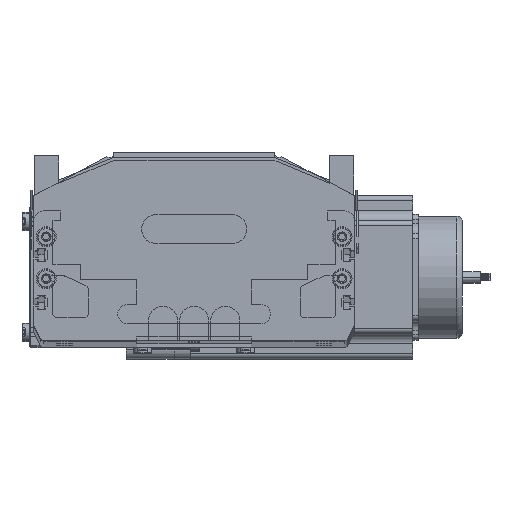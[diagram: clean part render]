
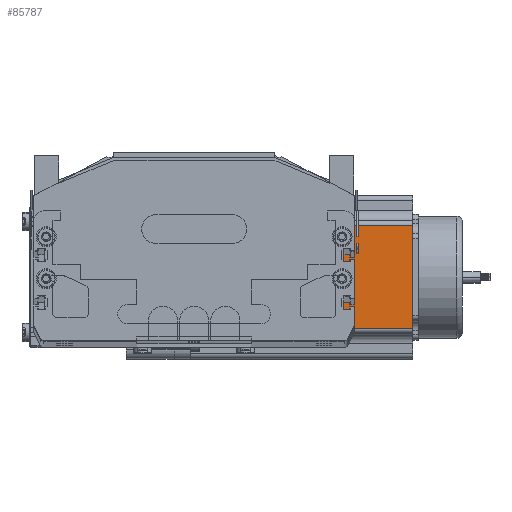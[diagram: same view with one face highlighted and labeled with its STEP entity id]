
A CAD part, top view. The second image highlights one B-rep face of the part: STEP entity #85787.
In plain terms, the highlighted planar face has unit normal (0, 0, 1) as drawn and (0, -1, 0) by its records, which use the part's own axes.
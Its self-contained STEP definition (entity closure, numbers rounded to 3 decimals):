
#36716 = CARTESIAN_POINT ( 'NONE',  ( 16.16, 0., 0. ) ) ;
#36743 = CARTESIAN_POINT ( 'NONE',  ( 0., 0., 0. ) ) ;
#36744 = LINE ( 'NONE', #36743, #36843 ) ;
#36836 = PLANE ( 'NONE',  #36860 ) ;
#36841 = DIRECTION ( 'NONE',  ( 1., 0., 0. ) ) ;
#36843 = VECTOR ( 'NONE', #36841, 1000. ) ;
#36860 = AXIS2_PLACEMENT_3D ( 'NONE', #36877, #36876, #36875 ) ;
#36866 = VECTOR ( 'NONE', #36969, 1000. ) ;
#36867 = DIRECTION ( 'NONE',  ( 0., 0., 1. ) ) ;
#36868 = VECTOR ( 'NONE', #36867, 1000. ) ;
#36870 = CARTESIAN_POINT ( 'NONE',  ( 69.74, 0., 116.5 ) ) ;
#36873 = CARTESIAN_POINT ( 'NONE',  ( 0., 0., 116.5 ) ) ;
#36874 = LINE ( 'NONE', #36873, #36866 ) ;
#36875 = DIRECTION ( 'NONE',  ( 0., 0., 1. ) ) ;
#36876 = DIRECTION ( 'NONE',  ( 0., 1., 0. ) ) ;
#36877 = CARTESIAN_POINT ( 'NONE',  ( 0., 0., 116.5 ) ) ;
#36878 = LINE ( 'NONE', #36870, #36868 ) ;
#36883 = LINE ( 'NONE', #36960, #36958 ) ;
#36905 = CARTESIAN_POINT ( 'NONE',  ( 69.74, 0., 0. ) ) ;
#36907 = FACE_OUTER_BOUND ( 'NONE', #85810, .T. ) ;
#36919 = CARTESIAN_POINT ( 'NONE',  ( 69.74, 0., 116.5 ) ) ;
#36956 = DIRECTION ( 'NONE',  ( 0., 0., -1. ) ) ;
#36958 = VECTOR ( 'NONE', #36956, 1000. ) ;
#36960 = CARTESIAN_POINT ( 'NONE',  ( 16.16, 0., 116.5 ) ) ;
#36969 = DIRECTION ( 'NONE',  ( 1., 0., 0. ) ) ;
#36973 = CARTESIAN_POINT ( 'NONE',  ( 16.16, 0., 116.5 ) ) ;
#85725 = ORIENTED_EDGE ( 'NONE', *, *, #85795, .T. ) ;
#85734 = VERTEX_POINT ( 'NONE', #36716 ) ;
#85767 = EDGE_CURVE ( 'NONE', #85734, #85781, #36744, .T. ) ;
#85780 = ORIENTED_EDGE ( 'NONE', *, *, #85767, .T. ) ;
#85781 = VERTEX_POINT ( 'NONE', #36905 ) ;
#85785 = VERTEX_POINT ( 'NONE', #36919 ) ;
#85787 = ADVANCED_FACE ( 'NONE', ( #36907 ), #36836, .F. ) ;
#85788 = ORIENTED_EDGE ( 'NONE', *, *, #85789, .T. ) ;
#85789 = EDGE_CURVE ( 'NONE', #85781, #85785, #36878, .T. ) ;
#85792 = ORIENTED_EDGE ( 'NONE', *, *, #85793, .F. ) ;
#85793 = EDGE_CURVE ( 'NONE', #85796, #85785, #36874, .T. ) ;
#85795 = EDGE_CURVE ( 'NONE', #85796, #85734, #36883, .T. ) ;
#85796 = VERTEX_POINT ( 'NONE', #36973 ) ;
#85810 = EDGE_LOOP ( 'NONE', ( #85780, #85788, #85792, #85725 ) ) ;
